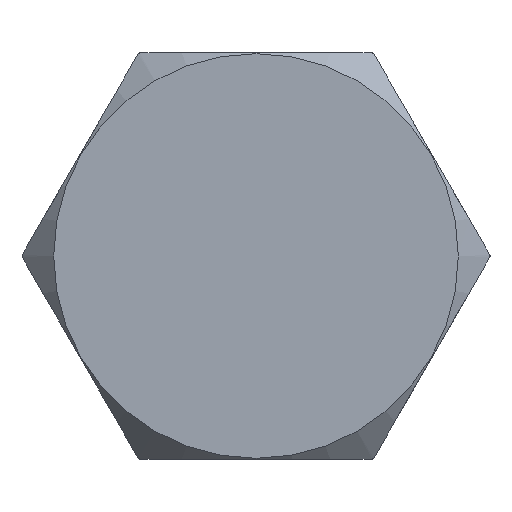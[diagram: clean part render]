
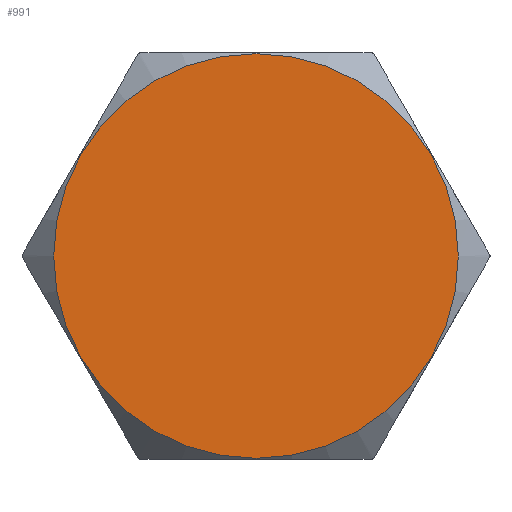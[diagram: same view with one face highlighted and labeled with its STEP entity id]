
A CAD part, front view. The second image highlights one B-rep face of the part: STEP entity #991.
In plain terms, the highlighted planar face has unit normal (0, -1, 0).
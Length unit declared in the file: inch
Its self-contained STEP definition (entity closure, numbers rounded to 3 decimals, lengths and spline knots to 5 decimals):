
#57=PLANE('',#1131);
#129=FACE_OUTER_BOUND('',#190,.T.);
#190=EDGE_LOOP('',(#829));
#348=CIRCLE('',#1128,0.498);
#453=VERTEX_POINT('',#1851);
#585=EDGE_CURVE('',#453,#453,#348,.T.);
#829=ORIENTED_EDGE('',*,*,#585,.F.);
#991=ADVANCED_FACE('',(#129),#57,.T.);
#1128=AXIS2_PLACEMENT_3D('',#1852,#1382,#1383);
#1131=AXIS2_PLACEMENT_3D('',#1856,#1389,#1390);
#1382=DIRECTION('center_axis',(0.,1.,0.));
#1383=DIRECTION('ref_axis',(0.,0.,1.));
#1389=DIRECTION('center_axis',(0.,-1.,0.));
#1390=DIRECTION('ref_axis',(0.,0.,-1.));
#1851=CARTESIAN_POINT('',(0.,0.,-0.498));
#1852=CARTESIAN_POINT('Origin',(0.,0.,0.));
#1856=CARTESIAN_POINT('Origin',(0.,0.,0.));
